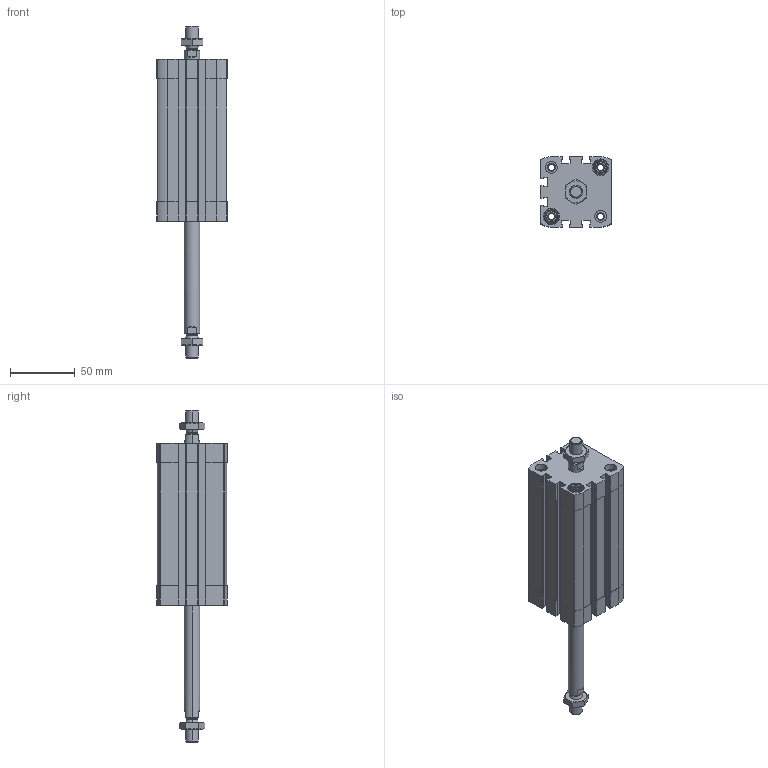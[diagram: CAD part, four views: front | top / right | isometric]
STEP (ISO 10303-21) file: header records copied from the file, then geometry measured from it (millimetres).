
FILE_DESCRIPTION (( 'STEP AP203' ), '1' );
FILE_NAME ('CCN40-80-P.STEP', '2020-06-22T18:54:23', ( '' ), ( '' ), 'SwSTEP 2.0', 'SolidWorks 2019', '' );
FILE_SCHEMA (( 'CONFIG_CONTROL_DESIGN' ));
Length unit declared in the file: millimetre
Products named in the file (1): CCN40-80-P
Bounding box: 54.5 x 54.5 x 256.6 mm (x, y, z)
Volume: 245584.6 mm3; surface area: 81881.9 mm2
Topology: 4 solids, 4 shells, 536 faces, 1416 edges, 920 vertices
Faces by surface type: plane 288, cylinder 180, cone 60, torus 8
Entity records: 17371 total; most frequent: CARTESIAN_POINT 3741, DIRECTION 2898, ORIENTED_EDGE 2832, EDGE_CURVE 1416, AXIS2_PLACEMENT_3D 1069, VERTEX_POINT 920, LINE 760, VECTOR 760
